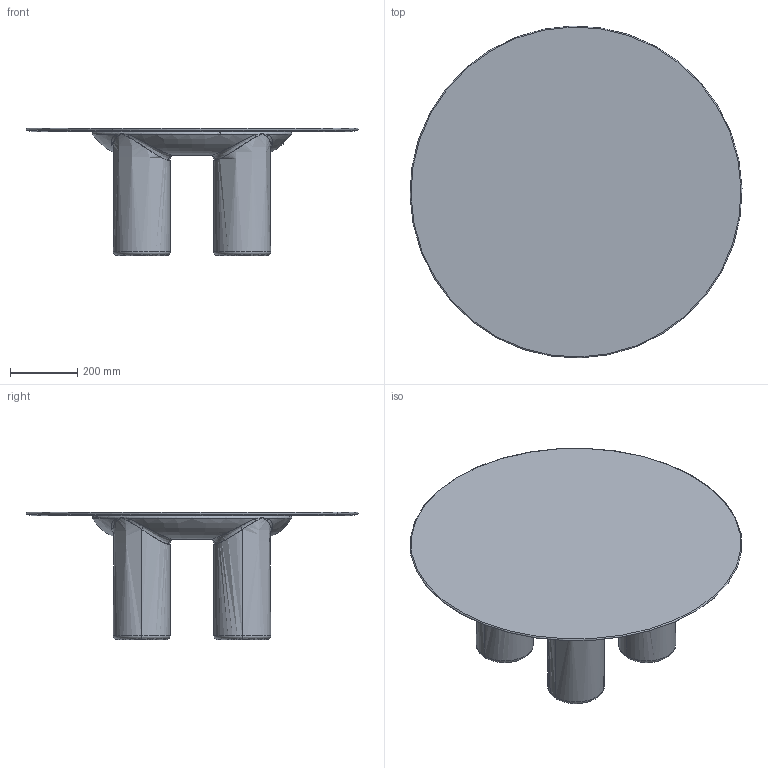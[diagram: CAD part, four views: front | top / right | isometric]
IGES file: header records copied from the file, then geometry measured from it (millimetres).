
Start section: START RECORD GO HERE.
Global section: file name: Tavolino-ATENE-con-PIANO-100.igs; native system: DASSAULT SYSTEMES CATIA Version 5-6 Release 2014 - www.3ds.com; preprocessor: V5-6R2014_5.24.5.0.02-24-2015.20.00; author: samatori; organization: DOMAIN; date: 20170413.145010; units: millimetre
Bounding box: 989.71 x 989.71 x 380 mm (x, y, z)
Surface area: 2811823.4 mm2 (no closed solid volume)
Topology: 0 solids, 0 shells, 99 faces, 484 edges, 468 vertices
Faces by surface type: revolution 62, bspline 28, plane 9
